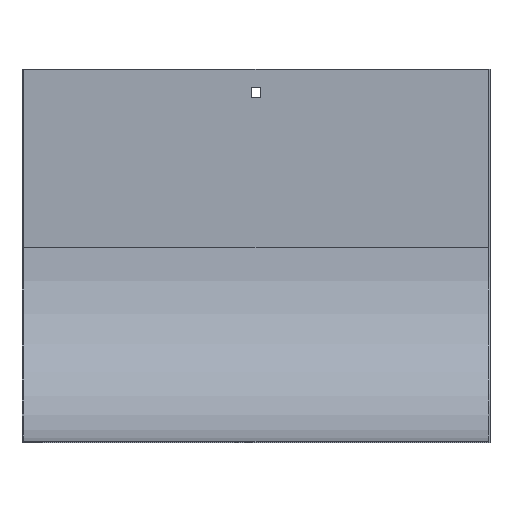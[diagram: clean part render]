
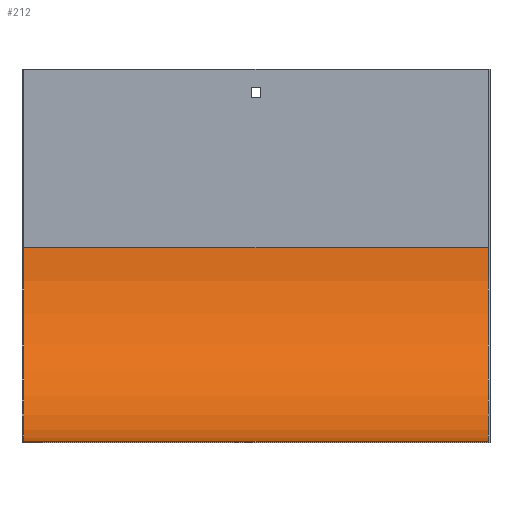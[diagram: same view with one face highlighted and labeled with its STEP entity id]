
A CAD part, front view. The second image highlights one B-rep face of the part: STEP entity #212.
In plain terms, the highlighted cylindrical face has radius 125 mm (diameter 250 mm), a partial arc.
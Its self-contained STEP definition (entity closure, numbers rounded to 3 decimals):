
#22 = DIRECTION ( 'NONE',  ( 1., 0., 0. ) ) ;
#67 = VECTOR ( 'NONE', #672, 1000. ) ;
#103 = ORIENTED_EDGE ( 'NONE', *, *, #478, .F. ) ;
#114 = AXIS2_PLACEMENT_3D ( 'NONE', #312, #653, #261 ) ;
#169 = VERTEX_POINT ( 'NONE', #727 ) ;
#212 = ADVANCED_FACE ( 'NONE', ( #670 ), #685, .F. ) ;
#230 = VERTEX_POINT ( 'NONE', #675 ) ;
#242 = AXIS2_PLACEMENT_3D ( 'NONE', #552, #354, #689 ) ;
#261 = DIRECTION ( 'NONE',  ( 0., 0., 1. ) ) ;
#262 = ORIENTED_EDGE ( 'NONE', *, *, #720, .T. ) ;
#312 = CARTESIAN_POINT ( 'NONE',  ( -150., -126., -115. ) ) ;
#338 = VERTEX_POINT ( 'NONE', #441 ) ;
#347 = CIRCLE ( 'NONE', #114, 125. ) ;
#354 = DIRECTION ( 'NONE',  ( -1., 0., 0. ) ) ;
#362 = CARTESIAN_POINT ( 'NONE',  ( -150., -1., -115. ) ) ;
#381 = ORIENTED_EDGE ( 'NONE', *, *, #419, .F. ) ;
#419 = EDGE_CURVE ( 'NONE', #338, #230, #742, .T. ) ;
#441 = CARTESIAN_POINT ( 'NONE',  ( 150., -126., -240. ) ) ;
#446 = AXIS2_PLACEMENT_3D ( 'NONE', #707, #22, #813 ) ;
#447 = CARTESIAN_POINT ( 'NONE',  ( 151., -126., -240. ) ) ;
#478 = EDGE_CURVE ( 'NONE', #230, #571, #347, .T. ) ;
#535 = EDGE_CURVE ( 'NONE', #338, #169, #798, .T. ) ;
#552 = CARTESIAN_POINT ( 'NONE',  ( 151., -126., -115. ) ) ;
#571 = VERTEX_POINT ( 'NONE', #362 ) ;
#617 = LINE ( 'NONE', #751, #67 ) ;
#653 = DIRECTION ( 'NONE',  ( 1., 0., 0. ) ) ;
#665 = DIRECTION ( 'NONE',  ( -1., 0., 0. ) ) ;
#670 = FACE_OUTER_BOUND ( 'NONE', #812, .T. ) ;
#672 = DIRECTION ( 'NONE',  ( -1., 0., 0. ) ) ;
#675 = CARTESIAN_POINT ( 'NONE',  ( -150., -126., -240. ) ) ;
#685 = CYLINDRICAL_SURFACE ( 'NONE', #242, 125. ) ;
#689 = DIRECTION ( 'NONE',  ( 0., 0., 1. ) ) ;
#707 = CARTESIAN_POINT ( 'NONE',  ( 150., -126., -115. ) ) ;
#720 = EDGE_CURVE ( 'NONE', #169, #571, #617, .T. ) ;
#727 = CARTESIAN_POINT ( 'NONE',  ( 150., -1., -115. ) ) ;
#742 = LINE ( 'NONE', #447, #853 ) ;
#751 = CARTESIAN_POINT ( 'NONE',  ( 151., -1., -115. ) ) ;
#752 = ORIENTED_EDGE ( 'NONE', *, *, #535, .T. ) ;
#798 = CIRCLE ( 'NONE', #446, 125. ) ;
#812 = EDGE_LOOP ( 'NONE', ( #103, #381, #752, #262 ) ) ;
#813 = DIRECTION ( 'NONE',  ( 0., 0., 1. ) ) ;
#853 = VECTOR ( 'NONE', #665, 1000. ) ;
